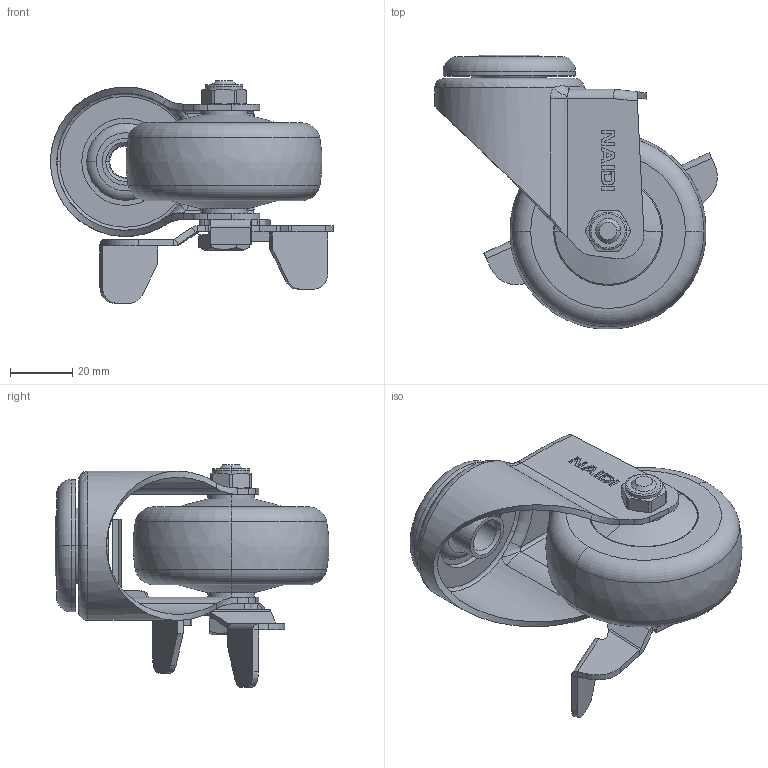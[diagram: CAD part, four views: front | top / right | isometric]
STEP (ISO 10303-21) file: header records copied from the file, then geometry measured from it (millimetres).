
FILE_DESCRIPTION((''),'2;1');
FILE_NAME('C341825C_ASM','2024-09-26T',('Lenovo'),(''),'PRO/ENGINEER BY PARAMETRIC TECHNOLOGY CORPORATION, 2010280','PRO/ENGINEER BY PARAMETRIC TECHNOLOGY CORPORATION, 2010280','');
FILE_SCHEMA(('CONFIG_CONTROL_DESIGN'));
Length unit declared in the file: millimetre
Products named in the file (10): C34125-311; 360-27; C3410-211; C3425-967; 3725-69; 302-33; 300-34; 3625-15; 300-14; C341825C_ASM
Assembly tree (10 placements, depth 2):
  C341825C_ASM
    C34125-311
    360-27
    C3410-211
    C3425-967
    3725-69  x2
    302-33
    300-34
    3625-15
    300-14
Bounding box: 90.8 x 87.92 x 71.4 mm (x, y, z)
Volume: 94327.8 mm3; surface area: 46946 mm2
Topology: 10 solids, 10 shells, 387 faces, 915 edges, 568 vertices
Faces by surface type: plane 178, cylinder 128, torus 36, bspline 25, cone 20
Entity records: 12316 total; most frequent: CARTESIAN_POINT 3674, DIRECTION 1814, ORIENTED_EDGE 1718, EDGE_CURVE 859, AXIS2_PLACEMENT_3D 663, VERTEX_POINT 536, VECTOR 488, LINE 488
